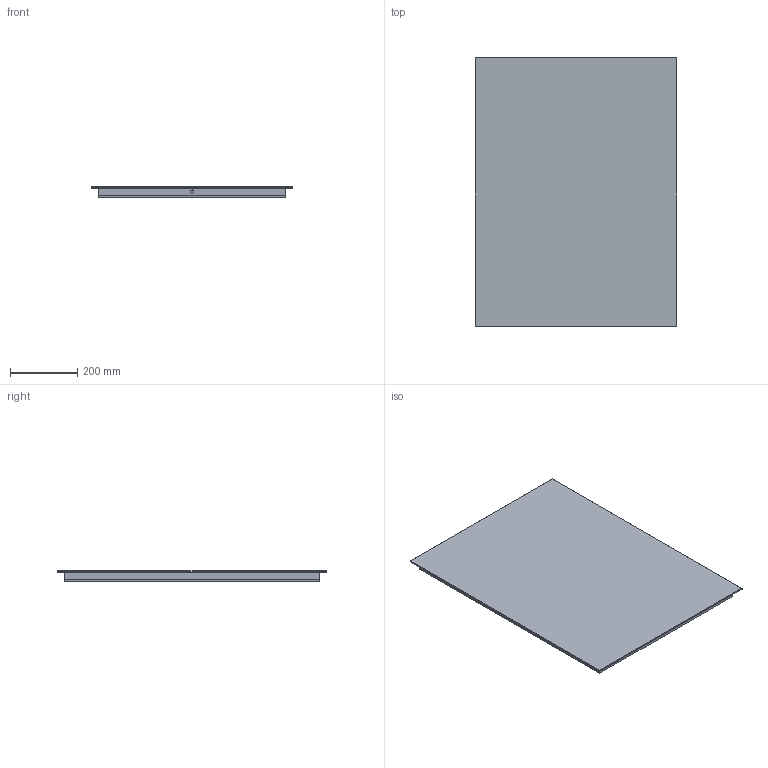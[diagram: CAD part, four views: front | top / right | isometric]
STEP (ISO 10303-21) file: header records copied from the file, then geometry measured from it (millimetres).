
FILE_DESCRIPTION (( 'STEP AP203' ), '1' );
FILE_NAME ('SPIEGEL MODEL 12 60CM.STEP', '2016-07-14T09:42:01', ( '' ), ( '' ), 'SwSTEP 2.0', 'SolidWorks 2016', '' );
FILE_SCHEMA (( 'CONFIG_CONTROL_DESIGN' ));
Length unit declared in the file: millimetre
Products named in the file (1): SPIEGEL MODEL 12 60CM
Bounding box: 600 x 800 x 30 mm (x, y, z)
Volume: 2908900.7 mm3; surface area: 1106155 mm2
Topology: 1 solids, 1 shells, 53 faces, 114 edges, 68 vertices
Faces by surface type: plane 47, cylinder 6
Entity records: 1469 total; most frequent: CARTESIAN_POINT 236, DIRECTION 234, ORIENTED_EDGE 228, EDGE_CURVE 114, LINE 102, VECTOR 102, VERTEX_POINT 68, AXIS2_PLACEMENT_3D 66
